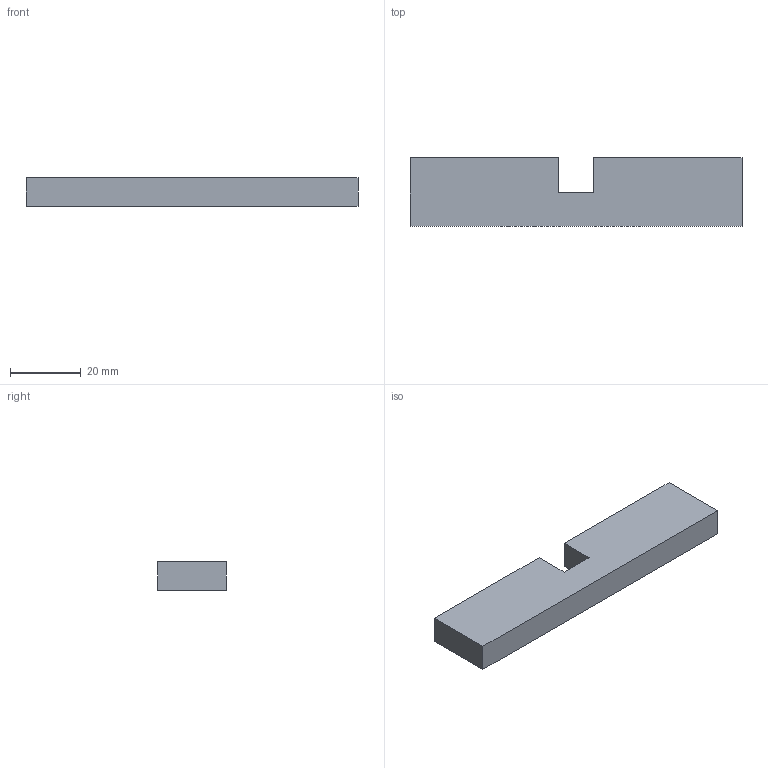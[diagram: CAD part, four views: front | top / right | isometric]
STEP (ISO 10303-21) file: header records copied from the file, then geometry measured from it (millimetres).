
FILE_DESCRIPTION(/* description */ (''),/* implementation_level */ '2;1');
FILE_NAME(/* name */ '',/* time_stamp */ '2025-06-11T17:31:43+09:00',/* author */ ('jhkim'),/* organization */ (''),/* preprocessor_version */ 'ST-DEVELOPER v20.1',/* originating_system */ 'Autodesk Inventor 2026',/* authorisation */ '');
FILE_SCHEMA (('AUTOMOTIVE_DESIGN { 1 0 10303 214 3 1 1 }'));
Length unit declared in the file: millimetre
Products named in the file (1): 슬라이더
Bounding box: 94 x 19.5 x 8 mm (x, y, z)
Volume: 13864 mm3; surface area: 5442 mm2
Topology: 1 solids, 1 shells, 10 faces, 24 edges, 16 vertices
Faces by surface type: plane 10
Entity records: 331 total; most frequent: CARTESIAN_POINT 51, ORIENTED_EDGE 48, DIRECTION 46, LINE 24, VECTOR 24, EDGE_CURVE 24, VERTEX_POINT 16, AXIS2_PLACEMENT_3D 11
